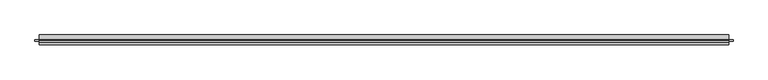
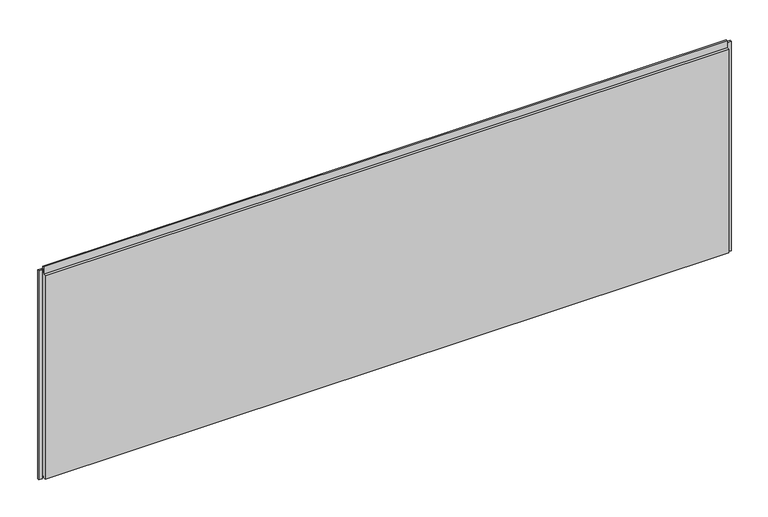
"""IFC4 building model written with IfcOpenShell, lengths in millimetres: plate geometry, Trimo_Qbiss Screen_Normal Panel-HORIZONTAL : HR - B."""

from ifc_helpers import new_model, si_unit, frame, origin, place, context, project, spatial, polyline, outline, extrude, source, transform, mapped, element, save


def plate_5e6c4082(model_context):
    return source(origin(), model_context, "Body", "SweptSolid", [
        extrude(outline(polyline([(-1722.6, 76.5978162), (-1722.6, 67.8978162), (-1741.6, 67.8978162), (-1741.6, 76.5978162), (-1722.6, 76.5978162)])), frame((0.0, 0.0, -1.0), z_axis=(0.0, 0.0, 1.0), x_axis=(1.0, 0.0, 0.0)), (0.0, 0.0, 1.0), 1112.5),
        extrude(outline(polyline([(1722.6, 67.8978162), (1722.6, 76.5978162), (1741.6, 76.5978162), (1741.6, 67.8978162), (1722.6, 67.8978162)])), frame((0.0, 0.0, -1.0), z_axis=(0.0, 0.0, 1.0), x_axis=(1.0, 0.0, 0.0)), (0.0, 0.0, 1.0), 1112.5),
        extrude(outline(polyline([(1719.6, 76.0), (1719.6, 71.0), (-1719.6, 71.0), (-1719.6, 76.0), (1719.6, 76.0)])), frame((0.0, 0.0, 1090.5), z_axis=(0.0, 0.0, 1.0), x_axis=(1.0, 0.0, 0.0)), (0.0, 0.0, 1.0), 21.0),
        extrude(outline(polyline([(71.0, 1089.5), (100.0, 1089.5), (100.0, 0.0), (72.0, 0.0), (72.0, 15.5), (62.0, 15.5), (62.0, 7.0), (50.0, 7.0), (50.0, 1089.5), (63.0, 1089.5), (63.0, 1127.0), (71.0, 1127.0), (71.0, 1089.5)])), frame((-1719.6, 0.0, 0.0), z_axis=(1.0, 0.0, 0.0), x_axis=(0.0, 1.0, 0.0)), (0.0, 0.0, 1.0), 3439.2),
    ])


if __name__ == "__main__":
    model = new_model("IFC4")
    model_context = context("Model", 3, world=origin())
    ifc_project = project(units=[si_unit("LENGTHUNIT", "METRE", prefix="MILLI")], contexts=[model_context])
    site = spatial("IfcSite", under=ifc_project)
    building = spatial("IfcBuilding", under=site)
    placement = place(None, origin())
    plate_shape = plate_5e6c4082(model_context)
    element("IfcPlate", 1, ObjectType="Trimo_Qbiss Screen_Normal Panel-HORIZONTAL : HR - B", at=placement, inside=building, context=model_context, shape_type="MappedRepresentation", body=[
        mapped(plate_shape, transform((0.0, 0.0, 0.0), x_axis=(1.0, 0.0, 0.0), y_axis=(0.0, 1.0, 0.0), z_axis=(0.0, 0.0, 1.0))),
    ])
    save(model, "model.ifc")
